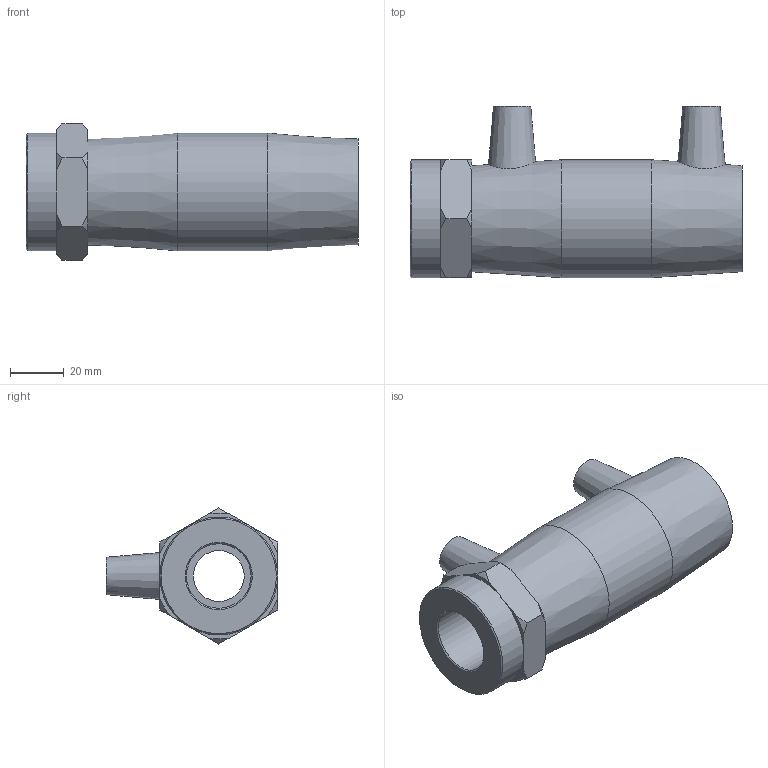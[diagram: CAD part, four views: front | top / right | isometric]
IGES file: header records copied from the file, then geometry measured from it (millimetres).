
Global section: file name: 493104032007.ipt; native system: Autodesk Inventor 2015; preprocessor: unknown; author: KIM; date: 20200202.122437; units: millimetre
Bounding box: 124 x 64 x 50.81 mm (x, y, z)
Volume: 127738 mm3; surface area: 32139.9 mm2
Topology: 1 solids, 1 shells, 54 faces, 130 edges, 86 vertices
Faces by surface type: plane 24, cone 17, revolution 9, cylinder 4
Full cylindrical faces by diameter (mm): 4 x2, 44 x2
